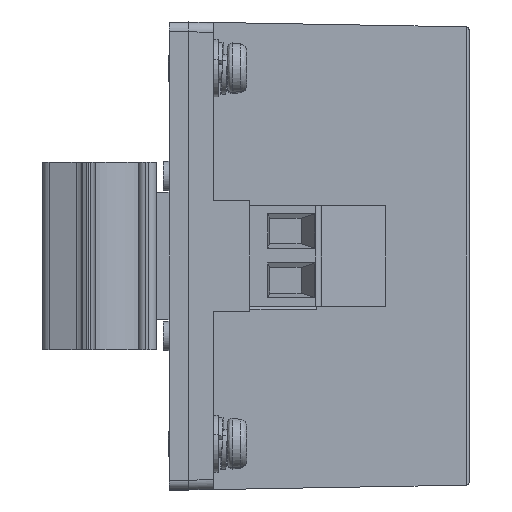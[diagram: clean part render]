
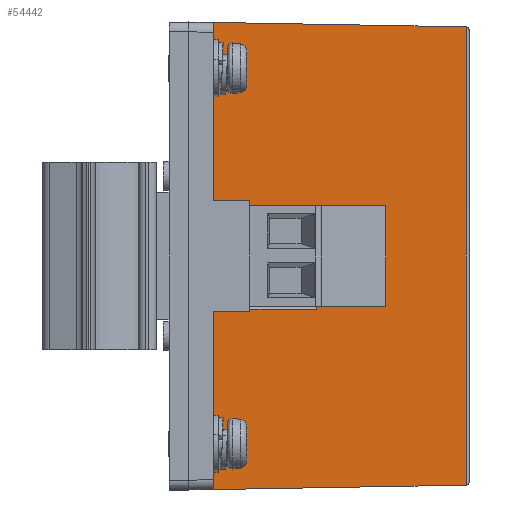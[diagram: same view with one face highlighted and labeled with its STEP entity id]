
A CAD part, left-side view. The second image highlights one B-rep face of the part: STEP entity #54442.
In plain terms, the highlighted planar face has unit normal (-1, -0.018, 0).
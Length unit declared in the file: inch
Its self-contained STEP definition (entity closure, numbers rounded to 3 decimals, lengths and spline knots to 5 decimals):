
#743 = LINE ( 'NONE', #42176, #16370 ) ;
#890 = PLANE ( 'NONE',  #1407 ) ;
#1233 = ORIENTED_EDGE ( 'NONE', *, *, #17779, .T. ) ;
#1407 = AXIS2_PLACEMENT_3D ( 'NONE', #44491, #5685, #44066 ) ;
#2813 = LINE ( 'NONE', #18708, #8025 ) ;
#3152 = DIRECTION ( 'NONE',  ( -0.017, 1., 0.017 ) ) ;
#3847 = VERTEX_POINT ( 'NONE', #24070 ) ;
#4878 = CARTESIAN_POINT ( 'NONE',  ( -1.76608, -1.10847, -0.93504 ) ) ;
#5065 = VERTEX_POINT ( 'NONE', #15339 ) ;
#5685 = DIRECTION ( 'NONE',  ( -1., -0.017, 0. ) ) ;
#6038 = EDGE_CURVE ( 'NONE', #9245, #3847, #59572, .T. ) ;
#6994 = EDGE_CURVE ( 'NONE', #42074, #40894, #18560, .T. ) ;
#7139 = DIRECTION ( 'NONE',  ( -0.017, 1., -0.017 ) ) ;
#7700 = CARTESIAN_POINT ( 'NONE',  ( -1.78372, -0.09843, 0.22269 ) ) ;
#7818 = CARTESIAN_POINT ( 'NONE',  ( -1.78372, -0.09843, 0.93332 ) ) ;
#8025 = VECTOR ( 'NONE', #42706, 39.37008 ) ;
#9241 = DIRECTION ( 'NONE',  ( 0.017, -1., 0.017 ) ) ;
#9245 = VERTEX_POINT ( 'NONE', #7818 ) ;
#11250 = CARTESIAN_POINT ( 'NONE',  ( -1.78372, -0.09843, -0.22269 ) ) ;
#12075 = VECTOR ( 'NONE', #3152, 39.37008 ) ;
#12485 = VECTOR ( 'NONE', #13688, 39.37008 ) ;
#12528 = DIRECTION ( 'NONE',  ( 0.017, -1., -0.017 ) ) ;
#13688 = DIRECTION ( 'NONE',  ( 0., 0., -1. ) ) ;
#14329 = CARTESIAN_POINT ( 'NONE',  ( -1.78372, -0.09843, -0.93504 ) ) ;
#15339 = CARTESIAN_POINT ( 'NONE',  ( -1.78372, -0.09843, -0.93332 ) ) ;
#16370 = VECTOR ( 'NONE', #9241, 39.37008 ) ;
#17779 = EDGE_CURVE ( 'NONE', #51244, #31158, #2813, .T. ) ;
#18560 = LINE ( 'NONE', #4878, #20069 ) ;
#18708 = CARTESIAN_POINT ( 'NONE',  ( -1.78117, -0.24409, -0.93504 ) ) ;
#20069 = VECTOR ( 'NONE', #48068, 39.37008 ) ;
#21514 = ORIENTED_EDGE ( 'NONE', *, *, #46330, .T. ) ;
#21799 = LINE ( 'NONE', #60503, #12075 ) ;
#24070 = CARTESIAN_POINT ( 'NONE',  ( -1.78372, -0.09843, 0.22269 ) ) ;
#25982 = ORIENTED_EDGE ( 'NONE', *, *, #41418, .T. ) ;
#27539 = VECTOR ( 'NONE', #57567, 39.37008 ) ;
#28336 = CARTESIAN_POINT ( 'NONE',  ( -1.78372, -0.09843, -0.93504 ) ) ;
#28440 = ORIENTED_EDGE ( 'NONE', *, *, #6038, .T. ) ;
#30431 = VECTOR ( 'NONE', #7139, 39.37008 ) ;
#31158 = VERTEX_POINT ( 'NONE', #39763 ) ;
#32326 = ORIENTED_EDGE ( 'NONE', *, *, #35757, .T. ) ;
#32364 = EDGE_CURVE ( 'NONE', #3847, #51244, #61369, .T. ) ;
#33848 = EDGE_LOOP ( 'NONE', ( #21514, #28440, #44793, #1233, #25982, #55530, #32326, #58586 ) ) ;
#35757 = EDGE_CURVE ( 'NONE', #5065, #40894, #743, .T. ) ;
#35912 = CARTESIAN_POINT ( 'NONE',  ( -1.76608, -1.10847, 0.91569 ) ) ;
#36551 = CARTESIAN_POINT ( 'NONE',  ( -1.78117, -0.24409, -0.22015 ) ) ;
#37207 = CARTESIAN_POINT ( 'NONE',  ( -1.78117, -0.24409, 0.22015 ) ) ;
#37463 = EDGE_CURVE ( 'NONE', #52009, #5065, #54451, .T. ) ;
#39763 = CARTESIAN_POINT ( 'NONE',  ( -1.78117, -0.24409, -0.22015 ) ) ;
#40894 = VERTEX_POINT ( 'NONE', #56041 ) ;
#41418 = EDGE_CURVE ( 'NONE', #31158, #52009, #56500, .T. ) ;
#42074 = VERTEX_POINT ( 'NONE', #35912 ) ;
#42176 = CARTESIAN_POINT ( 'NONE',  ( -1.78372, -0.09843, -0.93332 ) ) ;
#42706 = DIRECTION ( 'NONE',  ( 0., 0., -1. ) ) ;
#44066 = DIRECTION ( 'NONE',  ( 0.017, -1., 0. ) ) ;
#44491 = CARTESIAN_POINT ( 'NONE',  ( -1.78543, 0., -0.93504 ) ) ;
#44793 = ORIENTED_EDGE ( 'NONE', *, *, #32364, .T. ) ;
#46330 = EDGE_CURVE ( 'NONE', #42074, #9245, #21799, .T. ) ;
#48068 = DIRECTION ( 'NONE',  ( 0., 0., -1. ) ) ;
#48731 = VECTOR ( 'NONE', #12528, 39.37008 ) ;
#51244 = VERTEX_POINT ( 'NONE', #37207 ) ;
#52009 = VERTEX_POINT ( 'NONE', #11250 ) ;
#54442 = ADVANCED_FACE ( 'NONE', ( #58902 ), #890, .T. ) ;
#54451 = LINE ( 'NONE', #14329, #27539 ) ;
#55530 = ORIENTED_EDGE ( 'NONE', *, *, #37463, .T. ) ;
#56041 = CARTESIAN_POINT ( 'NONE',  ( -1.76608, -1.10847, -0.91569 ) ) ;
#56500 = LINE ( 'NONE', #36551, #30431 ) ;
#57567 = DIRECTION ( 'NONE',  ( 0., 0., -1. ) ) ;
#58586 = ORIENTED_EDGE ( 'NONE', *, *, #6994, .F. ) ;
#58902 = FACE_OUTER_BOUND ( 'NONE', #33848, .T. ) ;
#59572 = LINE ( 'NONE', #28336, #12485 ) ;
#60503 = CARTESIAN_POINT ( 'NONE',  ( -1.76608, -1.10847, 0.91569 ) ) ;
#61369 = LINE ( 'NONE', #7700, #48731 ) ;
